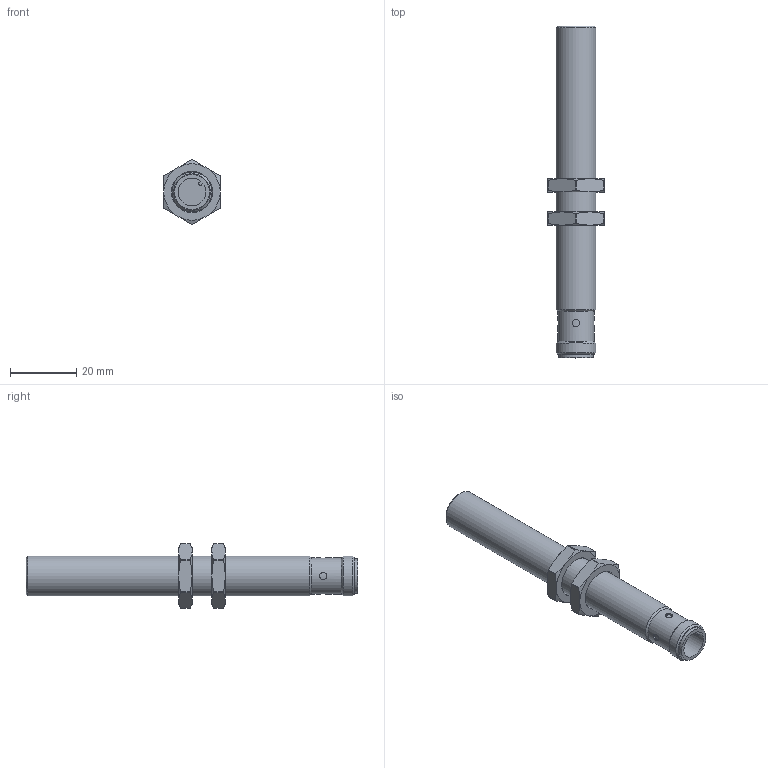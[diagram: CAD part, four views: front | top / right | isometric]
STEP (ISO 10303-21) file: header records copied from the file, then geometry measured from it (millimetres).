
FILE_DESCRIPTION (( 'STEP AP203' ), '1' );
FILE_NAME ('Bi-M12-H1-L100.step', '2019-11-26T16:29:12', ( '' ), ( '' ), 'SwSTEP 2.0', 'SolidWorks 2017', '' );
FILE_SCHEMA (( 'CONFIG_CONTROL_DESIGN' ));
Length unit declared in the file: millimetre
Products named in the file (1): Bi-M12-H1-L100
Bounding box: 17 x 100 x 19.5 mm (x, y, z)
Volume: 11736.5 mm3; surface area: 4927.9 mm2
Topology: 1 solids, 1 shells, 83 faces, 191 edges, 119 vertices
Faces by surface type: cone 32, cylinder 28, plane 23
Full cylindrical faces by diameter (mm): 2.2 x4, 8.375 x1, 10.45 x1, 11 x1, 12 x4
Entity records: 2521 total; most frequent: CARTESIAN_POINT 826, DIRECTION 342, ORIENTED_EDGE 318, EDGE_CURVE 159, AXIS2_PLACEMENT_3D 155, EDGE_LOOP 112, VERTEX_POINT 107, FACE_OUTER_BOUND 94
